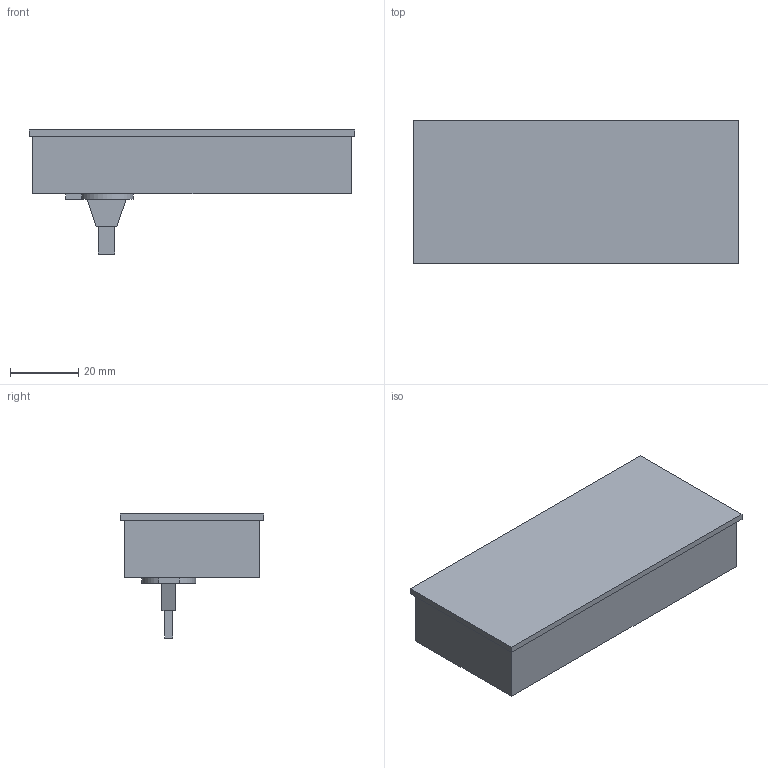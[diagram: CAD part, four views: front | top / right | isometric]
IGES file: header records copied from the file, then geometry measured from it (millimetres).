
Start section: Data from Parasolid IGES Translator 20.0.26, Copyright(c) 2006 Siemens P LM Software. All Rights Reserved.
Global section: file name: 9155201.igs; native system: By Siemens PLM Incorporated; preprocessor: XPlus GENERIC/IGES 20.0.26; author: Noname; organization: Noname; date: 20201226.155235; units: millimetre
Bounding box: 95.4 x 42 x 36.3 mm (x, y, z)
Surface area: 13391.5 mm2 (no closed solid volume)
Topology: 0 solids, 0 shells, 27 faces, 126 edges, 126 vertices
Faces by surface type: extrusion 25, revolution 2
